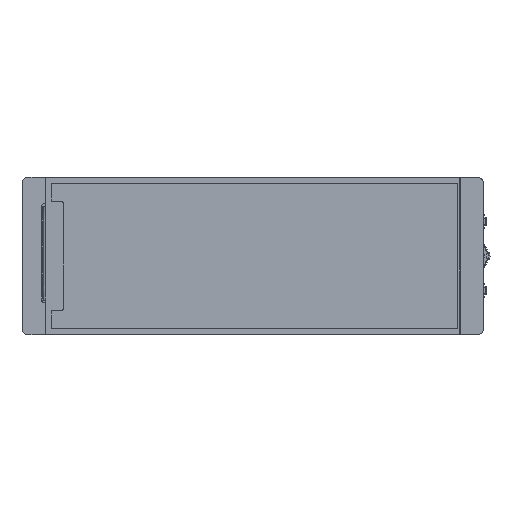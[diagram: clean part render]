
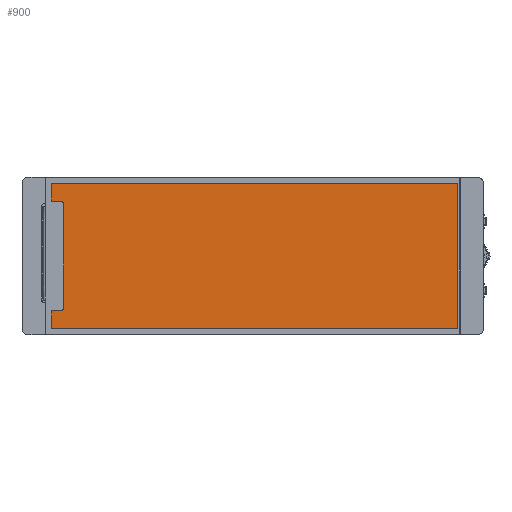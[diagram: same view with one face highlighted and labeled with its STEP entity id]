
A CAD part, top view. The second image highlights one B-rep face of the part: STEP entity #900.
In plain terms, the highlighted planar face has unit normal (0, 0, 1).
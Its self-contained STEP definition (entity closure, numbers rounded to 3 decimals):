
#709=DIRECTION('',(0.,-1.,0.));
#710=VECTOR('',#709,38.);
#711=CARTESIAN_POINT('',(-69.1,19.,0.));
#712=LINE('',#711,#710);
#713=CARTESIAN_POINT('',(-70.1,19.,0.));
#714=DIRECTION('',(0.,0.,-1.));
#715=DIRECTION('',(0.,1.,0.));
#716=AXIS2_PLACEMENT_3D('',#713,#714,#715);
#718=DIRECTION('',(1.,0.,0.));
#719=VECTOR('',#718,3.36);
#720=CARTESIAN_POINT('',(-73.46,20.,0.));
#721=LINE('',#720,#719);
#722=DIRECTION('',(0.,-1.,0.));
#723=VECTOR('',#722,6.47);
#724=CARTESIAN_POINT('',(-73.46,26.47,0.));
#725=LINE('',#724,#723);
#726=DIRECTION('',(-1.,0.,0.));
#727=VECTOR('',#726,148.12);
#728=CARTESIAN_POINT('',(74.66,26.47,0.));
#729=LINE('',#728,#727);
#730=DIRECTION('',(0.,1.,0.));
#731=VECTOR('',#730,52.94);
#732=CARTESIAN_POINT('',(74.66,-26.47,0.));
#733=LINE('',#732,#731);
#734=DIRECTION('',(1.,0.,0.));
#735=VECTOR('',#734,148.12);
#736=CARTESIAN_POINT('',(-73.46,-26.47,0.));
#737=LINE('',#736,#735);
#738=DIRECTION('',(0.,-1.,0.));
#739=VECTOR('',#738,6.47);
#740=CARTESIAN_POINT('',(-73.46,-20.,0.));
#741=LINE('',#740,#739);
#742=DIRECTION('',(-1.,0.,0.));
#743=VECTOR('',#742,3.36);
#744=CARTESIAN_POINT('',(-70.1,-20.,0.));
#745=LINE('',#744,#743);
#746=CARTESIAN_POINT('',(-70.1,-19.,0.));
#747=DIRECTION('',(0.,0.,-1.));
#748=DIRECTION('',(1.,0.,0.));
#749=AXIS2_PLACEMENT_3D('',#746,#747,#748);
#833=CARTESIAN_POINT('',(-73.46,20.,0.));
#834=CARTESIAN_POINT('',(-70.1,20.,0.));
#835=VERTEX_POINT('',#833);
#836=VERTEX_POINT('',#834);
#837=CARTESIAN_POINT('',(-73.46,26.47,0.));
#838=VERTEX_POINT('',#837);
#839=CARTESIAN_POINT('',(74.66,26.47,0.));
#840=VERTEX_POINT('',#839);
#841=CARTESIAN_POINT('',(74.66,-26.47,0.));
#842=VERTEX_POINT('',#841);
#843=CARTESIAN_POINT('',(-73.46,-26.47,0.));
#844=VERTEX_POINT('',#843);
#845=CARTESIAN_POINT('',(-73.46,-20.,0.));
#846=VERTEX_POINT('',#845);
#847=CARTESIAN_POINT('',(-70.1,-20.,0.));
#848=VERTEX_POINT('',#847);
#849=CARTESIAN_POINT('',(-69.1,19.,0.));
#850=CARTESIAN_POINT('',(-69.1,-19.,0.));
#851=VERTEX_POINT('',#849);
#852=VERTEX_POINT('',#850);
#873=CARTESIAN_POINT('',(76.141,-26.999,0.));
#874=DIRECTION('',(0.,0.,1.));
#875=DIRECTION('',(1.,0.,0.));
#876=AXIS2_PLACEMENT_3D('',#873,#874,#875);
#877=PLANE('',#876);
#879=ORIENTED_EDGE('',*,*,#878,.F.);
#881=ORIENTED_EDGE('',*,*,#880,.F.);
#883=ORIENTED_EDGE('',*,*,#882,.F.);
#885=ORIENTED_EDGE('',*,*,#884,.F.);
#887=ORIENTED_EDGE('',*,*,#886,.F.);
#889=ORIENTED_EDGE('',*,*,#888,.F.);
#891=ORIENTED_EDGE('',*,*,#890,.F.);
#893=ORIENTED_EDGE('',*,*,#892,.F.);
#895=ORIENTED_EDGE('',*,*,#894,.F.);
#897=ORIENTED_EDGE('',*,*,#896,.F.);
#898=EDGE_LOOP('',(#879,#881,#883,#885,#887,#889,#891,#893,#895,#897));
#899=FACE_OUTER_BOUND('',#898,.F.);
#900=ADVANCED_FACE('',(#899),#877,.T.);
#717=CIRCLE('',#716,1.);
#750=CIRCLE('',#749,1.);
#878=EDGE_CURVE('',#851,#852,#712,.T.);
#880=EDGE_CURVE('',#836,#851,#717,.T.);
#882=EDGE_CURVE('',#835,#836,#721,.T.);
#884=EDGE_CURVE('',#838,#835,#725,.T.);
#886=EDGE_CURVE('',#840,#838,#729,.T.);
#888=EDGE_CURVE('',#842,#840,#733,.T.);
#890=EDGE_CURVE('',#844,#842,#737,.T.);
#892=EDGE_CURVE('',#846,#844,#741,.T.);
#894=EDGE_CURVE('',#848,#846,#745,.T.);
#896=EDGE_CURVE('',#852,#848,#750,.T.);
